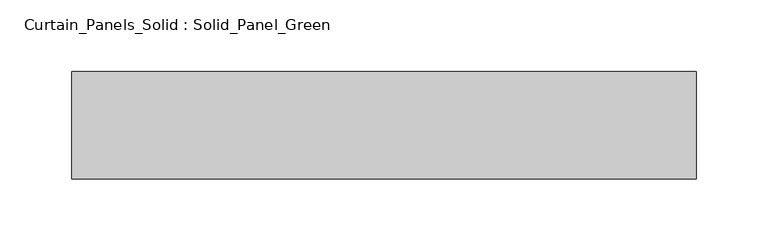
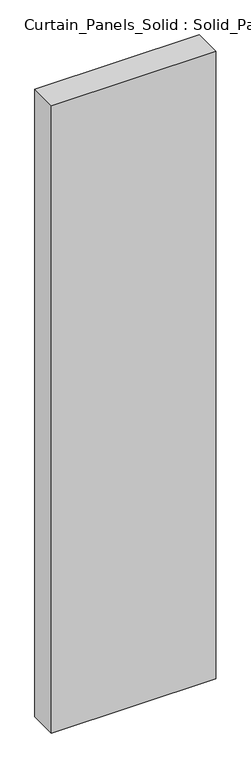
"""IFC4 building model written with IfcOpenShell, lengths in millimetres: plate geometry, Curtain_Panels_Solid : Solid_Panel_Green."""

from ifc_helpers import new_model, si_unit, origin, origin_with_axes, place, context, project, spatial, polyline, outline, extrude, source, transform, mapped, element, save


def curtain_panels_solid_solid_panel_green_723635d2(model_context):
    return source(origin(), model_context, "Body", "SweptSolid", [
        extrude(outline(polyline([(218.125, 25.0), (218.125, -50.0), (-218.125, -50.0), (-218.125, 25.0), (218.125, 25.0)])), origin_with_axes(), (0.0, 0.0, 1.0), 1760.0),
    ])


if __name__ == "__main__":
    model = new_model("IFC4")
    model_context = context("Model", 3, world=origin())
    ifc_project = project(units=[si_unit("LENGTHUNIT", "METRE", prefix="MILLI")], contexts=[model_context])
    site = spatial("IfcSite", under=ifc_project)
    building = spatial("IfcBuilding", under=site)
    placement = place(None, origin())
    curtain_panels_solid_solid_panel_green_shape = curtain_panels_solid_solid_panel_green_723635d2(model_context)
    element("IfcPlate", 1, ObjectType="Curtain_Panels_Solid : Solid_Panel_Green", at=placement, inside=building, context=model_context, shape_type="MappedRepresentation", body=[
        mapped(curtain_panels_solid_solid_panel_green_shape, transform((0.0, 0.0, 0.0), x_axis=(1.0, 0.0, 0.0), y_axis=(0.0, 1.0, 0.0), z_axis=(0.0, 0.0, 1.0))),
    ])
    save(model, "model.ifc")
